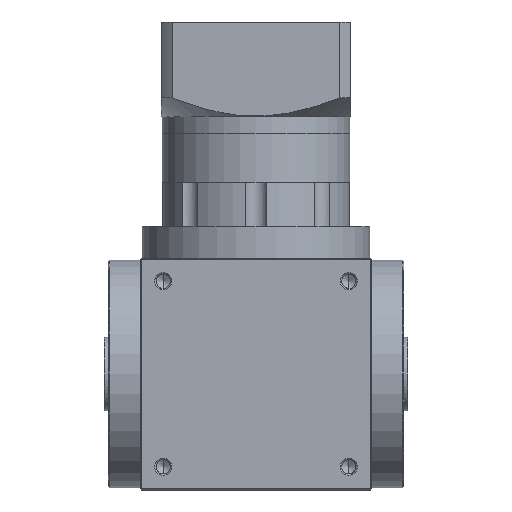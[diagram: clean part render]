
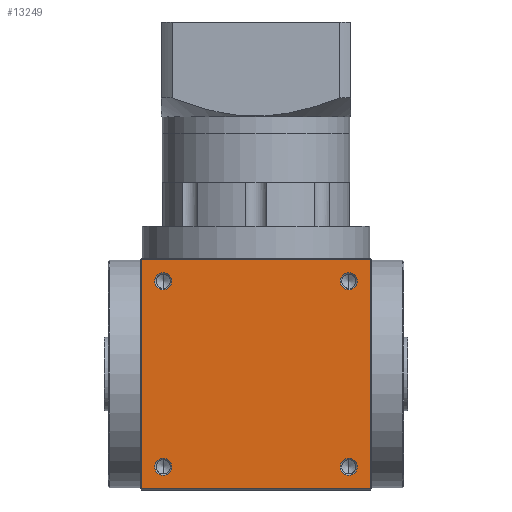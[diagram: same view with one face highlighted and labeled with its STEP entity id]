
A CAD part, front view. The second image highlights one B-rep face of the part: STEP entity #13249.
In plain terms, the highlighted planar face has unit normal (0, -1, 0).
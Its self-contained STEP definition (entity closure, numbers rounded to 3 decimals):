
#807 = DIRECTION ( 'NONE',  ( 1., 0., 0. ) ) ;
#855 = CIRCLE ( 'NONE', #30670, 4.025 ) ;
#1685 = CIRCLE ( 'NONE', #32861, 4.025 ) ;
#2368 = FACE_OUTER_BOUND ( 'NONE', #36375, .T. ) ;
#2471 = FACE_BOUND ( 'NONE', #50794, .T. ) ;
#2583 = FACE_BOUND ( 'NONE', #11580, .T. ) ;
#2630 = FACE_BOUND ( 'NONE', #52323, .T. ) ;
#2928 = VERTEX_POINT ( 'NONE', #32156 ) ;
#3261 = AXIS2_PLACEMENT_3D ( 'NONE', #8380, #39100, #12899 ) ;
#3435 = FACE_BOUND ( 'NONE', #9495, .T. ) ;
#3946 = DIRECTION ( 'NONE',  ( 1., 0., 0. ) ) ;
#4680 = VERTEX_POINT ( 'NONE', #24306 ) ;
#4776 = ORIENTED_EDGE ( 'NONE', *, *, #50119, .F. ) ;
#7459 = CARTESIAN_POINT ( 'NONE',  ( 39.975, -55., 99. ) ) ;
#7581 = ORIENTED_EDGE ( 'NONE', *, *, #38030, .F. ) ;
#8271 = ORIENTED_EDGE ( 'NONE', *, *, #29996, .F. ) ;
#8380 = CARTESIAN_POINT ( 'NONE',  ( -44., -55., 99. ) ) ;
#9412 = VERTEX_POINT ( 'NONE', #33787 ) ;
#9462 = CIRCLE ( 'NONE', #40286, 4.025 ) ;
#9495 = EDGE_LOOP ( 'NONE', ( #48131, #8271 ) ) ;
#11199 = EDGE_CURVE ( 'NONE', #18909, #9412, #50543, .T. ) ;
#11203 = DIRECTION ( 'NONE',  ( 1., 0., 0. ) ) ;
#11213 = DIRECTION ( 'NONE',  ( 0., -1., 0. ) ) ;
#11251 = DIRECTION ( 'NONE',  ( 0., -1., 0. ) ) ;
#11292 = DIRECTION ( 'NONE',  ( 0., 0., -1. ) ) ;
#11384 = CARTESIAN_POINT ( 'NONE',  ( -44., -55., 11. ) ) ;
#11427 = VERTEX_POINT ( 'NONE', #15687 ) ;
#11580 = EDGE_LOOP ( 'NONE', ( #12790, #17454 ) ) ;
#12312 = EDGE_CURVE ( 'NONE', #24729, #11427, #23361, .T. ) ;
#12790 = ORIENTED_EDGE ( 'NONE', *, *, #25495, .F. ) ;
#12899 = DIRECTION ( 'NONE',  ( 1., 0., 0. ) ) ;
#13249 = ADVANCED_FACE ( 'NONE', ( #2471, #3435, #2630, #2583, #2368 ), #15474, .F. ) ;
#13377 = EDGE_CURVE ( 'NONE', #2928, #37259, #855, .T. ) ;
#13527 = ORIENTED_EDGE ( 'NONE', *, *, #54748, .F. ) ;
#14410 = CIRCLE ( 'NONE', #35374, 4.025 ) ;
#14521 = DIRECTION ( 'NONE',  ( 0., -1., 0. ) ) ;
#15076 = DIRECTION ( 'NONE',  ( 0., 0., 1. ) ) ;
#15121 = DIRECTION ( 'NONE',  ( 0., 1., 0. ) ) ;
#15162 = ORIENTED_EDGE ( 'NONE', *, *, #55034, .F. ) ;
#15392 = CARTESIAN_POINT ( 'NONE',  ( -55., -55., 110. ) ) ;
#15474 = PLANE ( 'NONE',  #21753 ) ;
#15687 = CARTESIAN_POINT ( 'NONE',  ( 54.5, -55., 109.5 ) ) ;
#16554 = DIRECTION ( 'NONE',  ( 0., 0., 1. ) ) ;
#16916 = DIRECTION ( 'NONE',  ( 1., 0., 0. ) ) ;
#16966 = DIRECTION ( 'NONE',  ( 0., -1., 0. ) ) ;
#16979 = CARTESIAN_POINT ( 'NONE',  ( 44., -55., 99. ) ) ;
#17454 = ORIENTED_EDGE ( 'NONE', *, *, #13377, .F. ) ;
#18866 = CARTESIAN_POINT ( 'NONE',  ( -39.975, -55., 99. ) ) ;
#18909 = VERTEX_POINT ( 'NONE', #48136 ) ;
#19070 = ORIENTED_EDGE ( 'NONE', *, *, #45185, .F. ) ;
#19074 = LINE ( 'NONE', #50454, #28733 ) ;
#20146 = AXIS2_PLACEMENT_3D ( 'NONE', #23600, #52656, #28057 ) ;
#20658 = EDGE_CURVE ( 'NONE', #45764, #36246, #9462, .T. ) ;
#21753 = AXIS2_PLACEMENT_3D ( 'NONE', #15392, #15121, #15076 ) ;
#22909 = VECTOR ( 'NONE', #47642, 1000. ) ;
#23185 = CIRCLE ( 'NONE', #39504, 4.025 ) ;
#23361 = LINE ( 'NONE', #47480, #22909 ) ;
#23600 = CARTESIAN_POINT ( 'NONE',  ( 44., -55., 99. ) ) ;
#24020 = CARTESIAN_POINT ( 'NONE',  ( -55., -55., 0.5 ) ) ;
#24306 = CARTESIAN_POINT ( 'NONE',  ( 48.025, -55., 11. ) ) ;
#24389 = DIRECTION ( 'NONE',  ( -1., 0., 0. ) ) ;
#24729 = VERTEX_POINT ( 'NONE', #48794 ) ;
#25495 = EDGE_CURVE ( 'NONE', #37259, #2928, #14410, .T. ) ;
#25640 = CIRCLE ( 'NONE', #20146, 4.025 ) ;
#25672 = VERTEX_POINT ( 'NONE', #28462 ) ;
#26390 = LINE ( 'NONE', #53759, #27798 ) ;
#27562 = CIRCLE ( 'NONE', #49352, 4.025 ) ;
#27675 = DIRECTION ( 'NONE',  ( 0., -1., 0. ) ) ;
#27798 = VECTOR ( 'NONE', #11292, 1000. ) ;
#28057 = DIRECTION ( 'NONE',  ( 1., 0., 0. ) ) ;
#28462 = CARTESIAN_POINT ( 'NONE',  ( -48.025, -55., 99. ) ) ;
#28733 = VECTOR ( 'NONE', #16554, 1000. ) ;
#29996 = EDGE_CURVE ( 'NONE', #36246, #45764, #25640, .T. ) ;
#30482 = CIRCLE ( 'NONE', #3261, 4.025 ) ;
#30670 = AXIS2_PLACEMENT_3D ( 'NONE', #11384, #11251, #11203 ) ;
#30781 = DIRECTION ( 'NONE',  ( 0., -1., 0. ) ) ;
#31621 = CARTESIAN_POINT ( 'NONE',  ( 39.975, -55., 11. ) ) ;
#32127 = EDGE_CURVE ( 'NONE', #25672, #34143, #30482, .T. ) ;
#32156 = CARTESIAN_POINT ( 'NONE',  ( -48.025, -55., 11. ) ) ;
#32861 = AXIS2_PLACEMENT_3D ( 'NONE', #52335, #27675, #807 ) ;
#33787 = CARTESIAN_POINT ( 'NONE',  ( -54.5, -55., 0.5 ) ) ;
#34143 = VERTEX_POINT ( 'NONE', #18866 ) ;
#35374 = AXIS2_PLACEMENT_3D ( 'NONE', #54973, #30781, #3946 ) ;
#36246 = VERTEX_POINT ( 'NONE', #7459 ) ;
#36375 = EDGE_LOOP ( 'NONE', ( #36639, #13527, #44461, #19070 ) ) ;
#36639 = ORIENTED_EDGE ( 'NONE', *, *, #12312, .F. ) ;
#37259 = VERTEX_POINT ( 'NONE', #39029 ) ;
#37569 = CARTESIAN_POINT ( 'NONE',  ( 44., -55., 11. ) ) ;
#38030 = EDGE_CURVE ( 'NONE', #34143, #25672, #27562, .T. ) ;
#39029 = CARTESIAN_POINT ( 'NONE',  ( -39.975, -55., 11. ) ) ;
#39100 = DIRECTION ( 'NONE',  ( 0., -1., 0. ) ) ;
#39504 = AXIS2_PLACEMENT_3D ( 'NONE', #37569, #11213, #41647 ) ;
#40286 = AXIS2_PLACEMENT_3D ( 'NONE', #16979, #16966, #16916 ) ;
#40558 = CARTESIAN_POINT ( 'NONE',  ( -44., -55., 99. ) ) ;
#41647 = DIRECTION ( 'NONE',  ( 1., 0., 0. ) ) ;
#44461 = ORIENTED_EDGE ( 'NONE', *, *, #11199, .F. ) ;
#44637 = DIRECTION ( 'NONE',  ( 1., 0., 0. ) ) ;
#45185 = EDGE_CURVE ( 'NONE', #11427, #18909, #26390, .T. ) ;
#45764 = VERTEX_POINT ( 'NONE', #51161 ) ;
#47480 = CARTESIAN_POINT ( 'NONE',  ( -55., -55., 109.5 ) ) ;
#47642 = DIRECTION ( 'NONE',  ( 1., 0., 0. ) ) ;
#48131 = ORIENTED_EDGE ( 'NONE', *, *, #20658, .F. ) ;
#48136 = CARTESIAN_POINT ( 'NONE',  ( 54.5, -55., 0.5 ) ) ;
#48794 = CARTESIAN_POINT ( 'NONE',  ( -54.5, -55., 109.5 ) ) ;
#49352 = AXIS2_PLACEMENT_3D ( 'NONE', #40558, #14521, #44637 ) ;
#50119 = EDGE_CURVE ( 'NONE', #50979, #4680, #23185, .T. ) ;
#50454 = CARTESIAN_POINT ( 'NONE',  ( -54.5, -55., 110. ) ) ;
#50543 = LINE ( 'NONE', #24020, #51323 ) ;
#50794 = EDGE_LOOP ( 'NONE', ( #15162, #4776 ) ) ;
#50979 = VERTEX_POINT ( 'NONE', #31621 ) ;
#51161 = CARTESIAN_POINT ( 'NONE',  ( 48.025, -55., 99. ) ) ;
#51323 = VECTOR ( 'NONE', #24389, 1000. ) ;
#52323 = EDGE_LOOP ( 'NONE', ( #7581, #54438 ) ) ;
#52335 = CARTESIAN_POINT ( 'NONE',  ( 44., -55., 11. ) ) ;
#52656 = DIRECTION ( 'NONE',  ( 0., -1., 0. ) ) ;
#53759 = CARTESIAN_POINT ( 'NONE',  ( 54.5, -55., 110. ) ) ;
#54438 = ORIENTED_EDGE ( 'NONE', *, *, #32127, .F. ) ;
#54748 = EDGE_CURVE ( 'NONE', #9412, #24729, #19074, .T. ) ;
#54973 = CARTESIAN_POINT ( 'NONE',  ( -44., -55., 11. ) ) ;
#55034 = EDGE_CURVE ( 'NONE', #4680, #50979, #1685, .T. ) ;
